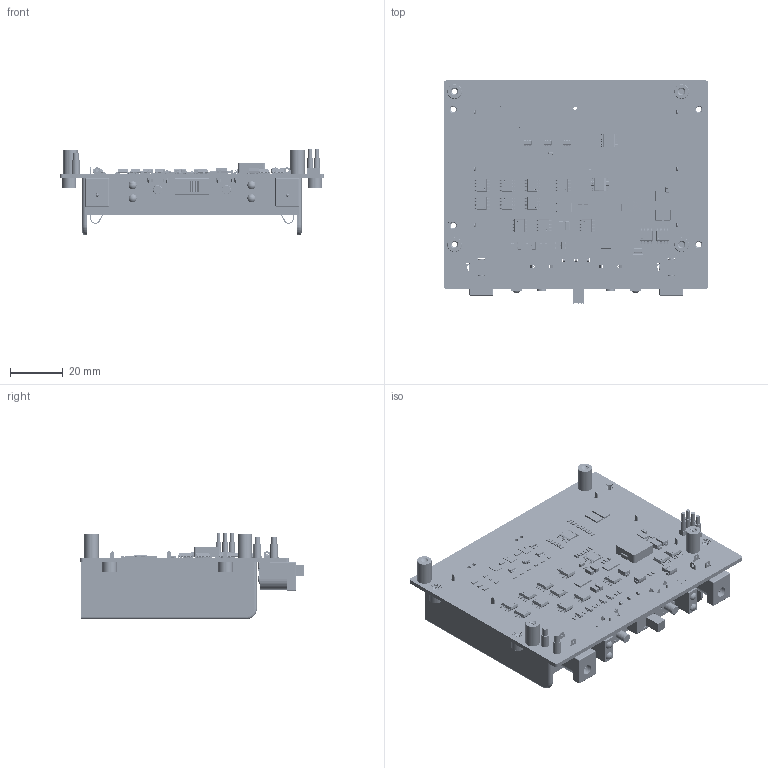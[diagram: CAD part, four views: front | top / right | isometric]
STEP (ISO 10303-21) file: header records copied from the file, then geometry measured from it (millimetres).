
FILE_DESCRIPTION((''),'2;1');
FILE_NAME('UPS-POWER-MODULE-PCBA_ASM','2025-03-06T11:01:44',('xiaojisheng'),(''),'CREO PARAMETRIC BY PTC INC, 2021063','CREO PARAMETRIC BY PTC INC, 2021063','');
FILE_SCHEMA(('CONFIG_CONTROL_DESIGN','SHAPE_APPEARANCE_LAYERS_GROUPS'));
Products named in the file (213): SMTSO-M2_5-9ET; SMTSO-M2_5-4ET; OPEN_CASCADE_STEP_TRANSLATOR_6_; BOARD_ASM; USER_LIBRARY-SOP-8; M1_ASM; PIN1BODY-9074; PIN2BODY-9583; CERAMICBODY-10092; COATINGBODY-10261; RESISTOR_0805_ASM; R24_ASM; PIN1-10484; PIN2-12498; CERAMICBODY-14581; CERAMIC_CAPACITOR_0805_H50MIL_ASM; C11_ASM; ENCAPSULAMENTO; TERMINAIS; SS54_SMA_ASM; D1_ASM; PIN1BODY-21692; PIN2BODY-22195; CERAMICBODY-22731; COATINGBODY-22900; RESISTOR_0603_ASM; R30_ASM; R29_ASM; R28_ASM; D6_ASM; D4_ASM; C18_ASM; SS-12D06L6_RGB8421504_1; SS-12D06L6_RGB8421504_2; SS-12D06L6_RGB8421504_3; SS-12D06L6_RGB8421504_4; SS-12D06L6_RGB8421504_5; SS-12D06L6_RGB8421504_6; SS-12D06L6_RGB8421504_7; SS-12D06L6_RGB8421504_8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
Assembly tree (390 placements, depth 6):
  UPS-POWER-MODULE-PCBA_ASM
    SMTSO-M2_5-9ET  x4
    SMTSO-M2_5-4ET  x4
    UPS_POWER_MODULE_C__ASM
      PCB_ASM
        BOARD_ASM
          OPEN_CASCADE_STEP_TRANSLATOR_6_
        M1_ASM
          USER_LIBRARY-SOP-8
        R24_ASM
          RESISTOR_0805_ASM
            PIN1BODY-9074
            PIN2BODY-9583
            CERAMICBODY-10092
            COATINGBODY-10261
        C11_ASM
          CERAMIC_CAPACITOR_0805_H50MIL_ASM
            PIN1-10484
            PIN2-12498
            CERAMICBODY-14581
        D1_ASM
          SS54_SMA_ASM
            ENCAPSULAMENTO
            TERMINAIS
        R30_ASM
          RESISTOR_0603_ASM
            PIN1BODY-21692
            PIN2BODY-22195
            CERAMICBODY-22731
            COATINGBODY-22900
        R29_ASM
          RESISTOR_0603_ASM
            PIN1BODY-21692
            PIN2BODY-22195
            CERAMICBODY-22731
            COATINGBODY-22900
        R28_ASM
          RESISTOR_0603_ASM
            PIN1BODY-21692
            PIN2BODY-22195
            CERAMICBODY-22731
            COATINGBODY-22900
        D6_ASM
          SS54_SMA_ASM
            ENCAPSULAMENTO
            TERMINAIS
        D4_ASM
          SS54_SMA_ASM
            ENCAPSULAMENTO
            TERMINAIS
        C18_ASM
          CERAMIC_CAPACITOR_0805_H50MIL_ASM
            PIN1-10484
            PIN2-12498
            CERAMICBODY-14581
        S1_ASM
          SS-12D06L6_RGB8421504_ASM
            SS-12D06L6_RGB8421504_1
            SS-12D06L6_RGB8421504_2
            SS-12D06L6_RGB8421504_3
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Bounding box: 100 x 84.53 x 32.9 mm (x, y, z)
Volume: 37930 mm3; surface area: 53125.3 mm2
Topology: 365 solids, 365 shells, 11132 faces, 27763 edges, 17418 vertices
Faces by surface type: plane 7041, cylinder 2450, extrusion 598, torus 450, bspline 381, sphere 172, cone 40
Entity records: 192741 total; most frequent: CARTESIAN_POINT 39686, DIRECTION 22415, ORIENTED_EDGE 21902, PRESENTATION_STYLE_ASSIGNMENT 12367, STYLED_ITEM 11091, CURVE_STYLE 11004, EDGE_CURVE 10951, VECTOR 8161
